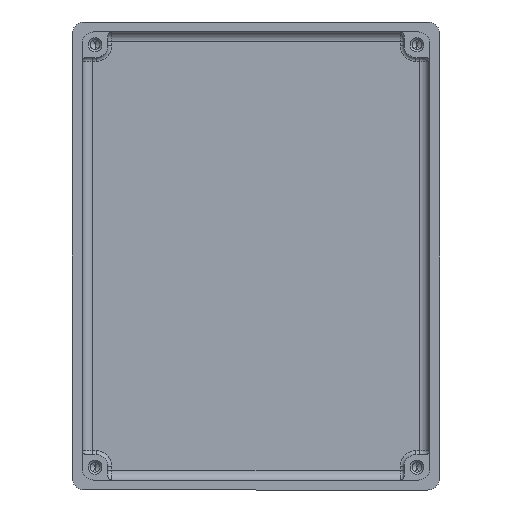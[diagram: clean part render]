
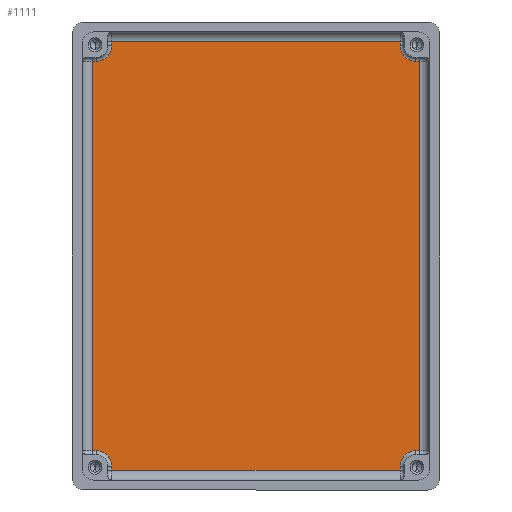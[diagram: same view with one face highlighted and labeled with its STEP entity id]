
A CAD part, front view. The second image highlights one B-rep face of the part: STEP entity #1111.
In plain terms, the highlighted planar face has unit normal (0, -1, 0).
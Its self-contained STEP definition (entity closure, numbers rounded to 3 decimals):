
#3 = VERTEX_POINT ( 'NONE', #2185 ) ;
#35 = EDGE_CURVE ( 'NONE', #411, #2103, #1504, .T. ) ;
#51 = VECTOR ( 'NONE', #2748, 1000. ) ;
#62 = CARTESIAN_POINT ( 'NONE',  ( 37.108, 27., -54. ) ) ;
#70 = CARTESIAN_POINT ( 'NONE',  ( -39.892, 27., 48.5 ) ) ;
#103 = CARTESIAN_POINT ( 'NONE',  ( 41.108, 27., 48.5 ) ) ;
#112 = CARTESIAN_POINT ( 'NONE',  ( -39.892, 27., -50. ) ) ;
#134 = ORIENTED_EDGE ( 'NONE', *, *, #1603, .T. ) ;
#164 = LINE ( 'NONE', #1894, #51 ) ;
#276 = CARTESIAN_POINT ( 'NONE',  ( -40.892, 27., -50. ) ) ;
#285 = CIRCLE ( 'NONE', #1876, 4. ) ;
#370 = LINE ( 'NONE', #569, #819 ) ;
#411 = VERTEX_POINT ( 'NONE', #535 ) ;
#446 = VERTEX_POINT ( 'NONE', #2688 ) ;
#495 = ORIENTED_EDGE ( 'NONE', *, *, #2459, .T. ) ;
#511 = ORIENTED_EDGE ( 'NONE', *, *, #1847, .T. ) ;
#535 = CARTESIAN_POINT ( 'NONE',  ( -35.892, 27., -55. ) ) ;
#541 = AXIS2_PLACEMENT_3D ( 'NONE', #1716, #2233, #2475 ) ;
#544 = CARTESIAN_POINT ( 'NONE',  ( 42.108, 27., 48.5 ) ) ;
#562 = DIRECTION ( 'NONE',  ( -1., 0., 0. ) ) ;
#569 = CARTESIAN_POINT ( 'NONE',  ( -39.892, 27., -50. ) ) ;
#574 = CARTESIAN_POINT ( 'NONE',  ( -40.892, 27., -50. ) ) ;
#575 = DIRECTION ( 'NONE',  ( -1., 0., 0. ) ) ;
#583 = AXIS2_PLACEMENT_3D ( 'NONE', #2633, #2690, #686 ) ;
#584 = CARTESIAN_POINT ( 'NONE',  ( -43.392, 27., 48.5 ) ) ;
#599 = VERTEX_POINT ( 'NONE', #2343 ) ;
#679 = ORIENTED_EDGE ( 'NONE', *, *, #35, .T. ) ;
#686 = DIRECTION ( 'NONE',  ( 0., 0., 1. ) ) ;
#688 = ORIENTED_EDGE ( 'NONE', *, *, #2649, .T. ) ;
#703 = CARTESIAN_POINT ( 'NONE',  ( -39.892, 27., -54. ) ) ;
#721 = LINE ( 'NONE', #1577, #1043 ) ;
#729 = CARTESIAN_POINT ( 'NONE',  ( -40.892, 27., 48.5 ) ) ;
#730 = ORIENTED_EDGE ( 'NONE', *, *, #1908, .T. ) ;
#755 = VERTEX_POINT ( 'NONE', #62 ) ;
#768 = ORIENTED_EDGE ( 'NONE', *, *, #2771, .T. ) ;
#771 = VERTEX_POINT ( 'NONE', #1820 ) ;
#789 = VECTOR ( 'NONE', #1872, 1000. ) ;
#816 = EDGE_CURVE ( 'NONE', #2044, #1256, #1646, .T. ) ;
#819 = VECTOR ( 'NONE', #1221, 1000. ) ;
#865 = DIRECTION ( 'NONE',  ( 0., 0., 1. ) ) ;
#869 = EDGE_CURVE ( 'NONE', #1281, #2127, #1410, .T. ) ;
#878 = VECTOR ( 'NONE', #2615, 1000. ) ;
#889 = CARTESIAN_POINT ( 'NONE',  ( 37.108, 27., -54. ) ) ;
#912 = CIRCLE ( 'NONE', #541, 4. ) ;
#1033 = CARTESIAN_POINT ( 'NONE',  ( -35.892, 27., 53.5 ) ) ;
#1043 = VECTOR ( 'NONE', #1137, 1000. ) ;
#1069 = CARTESIAN_POINT ( 'NONE',  ( 41.108, 27., 48.5 ) ) ;
#1089 = EDGE_CURVE ( 'NONE', #2086, #2421, #912, .T. ) ;
#1092 = LINE ( 'NONE', #889, #878 ) ;
#1097 = CARTESIAN_POINT ( 'NONE',  ( 44.608, 27., -50. ) ) ;
#1111 = ADVANCED_FACE ( 'NONE', ( #2678 ), #1590, .F. ) ;
#1117 = LINE ( 'NONE', #1733, #1555 ) ;
#1136 = EDGE_CURVE ( 'NONE', #2421, #3, #721, .T. ) ;
#1137 = DIRECTION ( 'NONE',  ( 0., 0., 1. ) ) ;
#1221 = DIRECTION ( 'NONE',  ( 1., 0., 0. ) ) ;
#1236 = LINE ( 'NONE', #103, #1929 ) ;
#1256 = VERTEX_POINT ( 'NONE', #2265 ) ;
#1281 = VERTEX_POINT ( 'NONE', #729 ) ;
#1284 = DIRECTION ( 'NONE',  ( 0., 0., -1. ) ) ;
#1285 = DIRECTION ( 'NONE',  ( 1., 0., 0. ) ) ;
#1313 = LINE ( 'NONE', #1097, #1886 ) ;
#1335 = CARTESIAN_POINT ( 'NONE',  ( 37.108, 27., 52.5 ) ) ;
#1339 = CIRCLE ( 'NONE', #1698, 4. ) ;
#1410 = LINE ( 'NONE', #574, #2480 ) ;
#1427 = LINE ( 'NONE', #2296, #2476 ) ;
#1463 = LINE ( 'NONE', #584, #1562 ) ;
#1485 = VERTEX_POINT ( 'NONE', #1033 ) ;
#1504 = LINE ( 'NONE', #2366, #2702 ) ;
#1555 = VECTOR ( 'NONE', #1284, 1000. ) ;
#1562 = VECTOR ( 'NONE', #2333, 1000. ) ;
#1577 = CARTESIAN_POINT ( 'NONE',  ( 37.108, 27., 56. ) ) ;
#1590 = PLANE ( 'NONE',  #583 ) ;
#1603 = EDGE_CURVE ( 'NONE', #771, #2044, #1313, .T. ) ;
#1645 = EDGE_CURVE ( 'NONE', #446, #2576, #1339, .T. ) ;
#1646 = LINE ( 'NONE', #544, #789 ) ;
#1698 = AXIS2_PLACEMENT_3D ( 'NONE', #2577, #2820, #2181 ) ;
#1716 = CARTESIAN_POINT ( 'NONE',  ( 41.108, 27., 52.5 ) ) ;
#1733 = CARTESIAN_POINT ( 'NONE',  ( -35.892, 27., 52.5 ) ) ;
#1738 = AXIS2_PLACEMENT_3D ( 'NONE', #703, #2814, #1973 ) ;
#1747 = ORIENTED_EDGE ( 'NONE', *, *, #1919, .T. ) ;
#1750 = ORIENTED_EDGE ( 'NONE', *, *, #2360, .T. ) ;
#1775 = ORIENTED_EDGE ( 'NONE', *, *, #869, .T. ) ;
#1820 = CARTESIAN_POINT ( 'NONE',  ( 41.108, 27., -50. ) ) ;
#1847 = EDGE_CURVE ( 'NONE', #599, #411, #164, .T. ) ;
#1849 = ORIENTED_EDGE ( 'NONE', *, *, #2050, .T. ) ;
#1872 = DIRECTION ( 'NONE',  ( 0., 0., 1. ) ) ;
#1876 = AXIS2_PLACEMENT_3D ( 'NONE', #2590, #2634, #865 ) ;
#1882 = EDGE_LOOP ( 'NONE', ( #511, #679, #495, #1849, #134, #2145, #1747, #2309, #1951, #730, #768, #1910, #1750, #1775, #688, #2457 ) ) ;
#1886 = VECTOR ( 'NONE', #2810, 1000. ) ;
#1894 = CARTESIAN_POINT ( 'NONE',  ( -35.892, 27., -57.5 ) ) ;
#1908 = EDGE_CURVE ( 'NONE', #3, #1485, #1427, .T. ) ;
#1910 = ORIENTED_EDGE ( 'NONE', *, *, #1645, .T. ) ;
#1919 = EDGE_CURVE ( 'NONE', #1256, #2086, #1236, .T. ) ;
#1929 = VECTOR ( 'NONE', #562, 1000. ) ;
#1951 = ORIENTED_EDGE ( 'NONE', *, *, #1136, .T. ) ;
#1973 = DIRECTION ( 'NONE',  ( 0., 0., 1. ) ) ;
#2044 = VERTEX_POINT ( 'NONE', #2393 ) ;
#2050 = EDGE_CURVE ( 'NONE', #755, #771, #285, .T. ) ;
#2086 = VERTEX_POINT ( 'NONE', #1069 ) ;
#2103 = VERTEX_POINT ( 'NONE', #2206 ) ;
#2127 = VERTEX_POINT ( 'NONE', #276 ) ;
#2145 = ORIENTED_EDGE ( 'NONE', *, *, #816, .T. ) ;
#2157 = CIRCLE ( 'NONE', #1738, 4. ) ;
#2181 = DIRECTION ( 'NONE',  ( 0., 0., 1. ) ) ;
#2185 = CARTESIAN_POINT ( 'NONE',  ( 37.108, 27., 53.5 ) ) ;
#2206 = CARTESIAN_POINT ( 'NONE',  ( 37.108, 27., -55. ) ) ;
#2233 = DIRECTION ( 'NONE',  ( 0., 1., 0. ) ) ;
#2265 = CARTESIAN_POINT ( 'NONE',  ( 42.108, 27., 48.5 ) ) ;
#2296 = CARTESIAN_POINT ( 'NONE',  ( -35.892, 27., 53.5 ) ) ;
#2309 = ORIENTED_EDGE ( 'NONE', *, *, #1089, .T. ) ;
#2333 = DIRECTION ( 'NONE',  ( -1., 0., 0. ) ) ;
#2343 = CARTESIAN_POINT ( 'NONE',  ( -35.892, 27., -54. ) ) ;
#2360 = EDGE_CURVE ( 'NONE', #2576, #1281, #1463, .T. ) ;
#2366 = CARTESIAN_POINT ( 'NONE',  ( 37.108, 27., -55. ) ) ;
#2393 = CARTESIAN_POINT ( 'NONE',  ( 42.108, 27., -50. ) ) ;
#2406 = EDGE_CURVE ( 'NONE', #2572, #599, #2157, .T. ) ;
#2421 = VERTEX_POINT ( 'NONE', #1335 ) ;
#2457 = ORIENTED_EDGE ( 'NONE', *, *, #2406, .T. ) ;
#2459 = EDGE_CURVE ( 'NONE', #2103, #755, #1092, .T. ) ;
#2475 = DIRECTION ( 'NONE',  ( 0., 0., 1. ) ) ;
#2476 = VECTOR ( 'NONE', #575, 1000. ) ;
#2480 = VECTOR ( 'NONE', #2746, 1000. ) ;
#2572 = VERTEX_POINT ( 'NONE', #112 ) ;
#2576 = VERTEX_POINT ( 'NONE', #70 ) ;
#2577 = CARTESIAN_POINT ( 'NONE',  ( -39.892, 27., 52.5 ) ) ;
#2590 = CARTESIAN_POINT ( 'NONE',  ( 41.108, 27., -54. ) ) ;
#2615 = DIRECTION ( 'NONE',  ( 0., 0., 1. ) ) ;
#2633 = CARTESIAN_POINT ( 'NONE',  ( 0., 27., 0. ) ) ;
#2634 = DIRECTION ( 'NONE',  ( 0., 1., 0. ) ) ;
#2649 = EDGE_CURVE ( 'NONE', #2127, #2572, #370, .T. ) ;
#2678 = FACE_OUTER_BOUND ( 'NONE', #1882, .T. ) ;
#2688 = CARTESIAN_POINT ( 'NONE',  ( -35.892, 27., 52.5 ) ) ;
#2690 = DIRECTION ( 'NONE',  ( 0., 1., 0. ) ) ;
#2702 = VECTOR ( 'NONE', #1285, 1000. ) ;
#2746 = DIRECTION ( 'NONE',  ( 0., 0., -1. ) ) ;
#2748 = DIRECTION ( 'NONE',  ( 0., 0., -1. ) ) ;
#2771 = EDGE_CURVE ( 'NONE', #1485, #446, #1117, .T. ) ;
#2810 = DIRECTION ( 'NONE',  ( 1., 0., 0. ) ) ;
#2814 = DIRECTION ( 'NONE',  ( 0., 1., 0. ) ) ;
#2820 = DIRECTION ( 'NONE',  ( 0., 1., 0. ) ) ;
